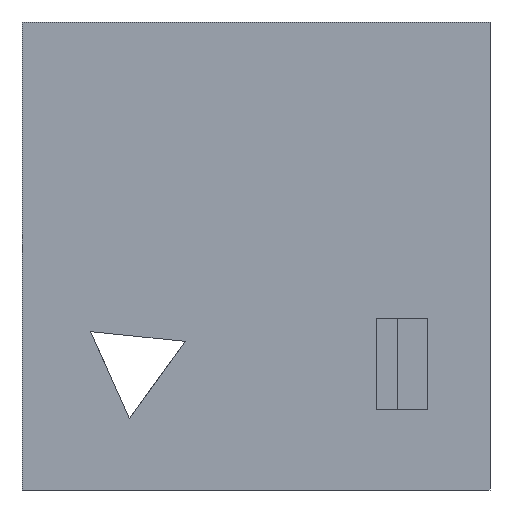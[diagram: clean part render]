
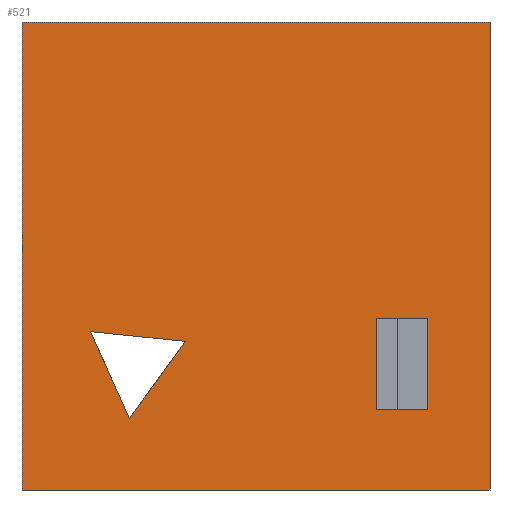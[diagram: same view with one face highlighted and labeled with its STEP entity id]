
A CAD part, left-side view. The second image highlights one B-rep face of the part: STEP entity #521.
In plain terms, the highlighted planar face has unit normal (-1, 0, 0).
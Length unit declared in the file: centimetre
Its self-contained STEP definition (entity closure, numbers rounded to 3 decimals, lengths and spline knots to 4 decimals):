
#12 = CARTESIAN_POINT ( 'NONE',  ( 0., 1000., 0. ) ) ;
#13 = VECTOR ( 'NONE', #1765, 100. ) ;
#43 = EDGE_CURVE ( 'NONE', #351, #1014, #515, .T. ) ;
#100 = DIRECTION ( 'NONE',  ( 1., 0., 0. ) ) ;
#146 = CARTESIAN_POINT ( 'NONE',  ( 0., 651.0376, 317.6156 ) ) ;
#164 = VERTEX_POINT ( 'NONE', #620 ) ;
#165 = CARTESIAN_POINT ( 'NONE',  ( 0., 132.484, 367.2993 ) ) ;
#187 = EDGE_CURVE ( 'NONE', #196, #321, #1201, .T. ) ;
#196 = VERTEX_POINT ( 'NONE', #522 ) ;
#214 = ORIENTED_EDGE ( 'NONE', *, *, #1640, .T. ) ;
#225 = DIRECTION ( 'NONE',  ( 0., 0.409, 0.913 ) ) ;
#247 = FACE_OUTER_BOUND ( 'NONE', #1452, .T. ) ;
#321 = VERTEX_POINT ( 'NONE', #1229 ) ;
#327 = ORIENTED_EDGE ( 'NONE', *, *, #875, .T. ) ;
#330 = CARTESIAN_POINT ( 'NONE',  ( 0., 0., 0. ) ) ;
#351 = VERTEX_POINT ( 'NONE', #433 ) ;
#367 = PLANE ( 'NONE',  #981 ) ;
#384 = DIRECTION ( 'NONE',  ( 0., 0., -1. ) ) ;
#392 = VERTEX_POINT ( 'NONE', #687 ) ;
#403 = EDGE_CURVE ( 'NONE', #392, #835, #989, .T. ) ;
#419 = CARTESIAN_POINT ( 'NONE',  ( 0., 1000., 0. ) ) ;
#429 = LINE ( 'NONE', #146, #784 ) ;
#433 = CARTESIAN_POINT ( 'NONE',  ( 0., 1000., 1000. ) ) ;
#512 = ORIENTED_EDGE ( 'NONE', *, *, #1221, .F. ) ;
#515 = LINE ( 'NONE', #1511, #1106 ) ;
#516 = DIRECTION ( 'NONE',  ( 0., 0., -1. ) ) ;
#521 = ADVANCED_FACE ( 'NONE', ( #1788, #1629, #247 ), #367, .F. ) ;
#522 = CARTESIAN_POINT ( 'NONE',  ( 0., 242.7774, 367.2993 ) ) ;
#559 = DIRECTION ( 'NONE',  ( 0., -0.995, -0.102 ) ) ;
#586 = DIRECTION ( 'NONE',  ( 0., 0.586, -0.81 ) ) ;
#615 = EDGE_CURVE ( 'NONE', #1392, #1134, #429, .T. ) ;
#620 = CARTESIAN_POINT ( 'NONE',  ( 0., 770.4334, 152.4191 ) ) ;
#656 = ORIENTED_EDGE ( 'NONE', *, *, #1474, .F. ) ;
#670 = CARTESIAN_POINT ( 'NONE',  ( 0., 0., 1000. ) ) ;
#677 = EDGE_CURVE ( 'NONE', #835, #196, #1422, .T. ) ;
#687 = CARTESIAN_POINT ( 'NONE',  ( 0., 132.484, 172.672 ) ) ;
#694 = LINE ( 'NONE', #419, #1369 ) ;
#700 = EDGE_CURVE ( 'NONE', #1014, #713, #694, .T. ) ;
#704 = DIRECTION ( 'NONE',  ( 0., 0., 1. ) ) ;
#713 = VERTEX_POINT ( 'NONE', #330 ) ;
#722 = DIRECTION ( 'NONE',  ( 0., 1., 0. ) ) ;
#725 = ORIENTED_EDGE ( 'NONE', *, *, #403, .F. ) ;
#776 = CARTESIAN_POINT ( 'NONE',  ( 0., 132.484, 367.2993 ) ) ;
#778 = EDGE_LOOP ( 'NONE', ( #214, #327, #997 ) ) ;
#784 = VECTOR ( 'NONE', #559, 100. ) ;
#835 = VERTEX_POINT ( 'NONE', #776 ) ;
#855 = EDGE_LOOP ( 'NONE', ( #725, #512, #903, #1284 ) ) ;
#857 = LINE ( 'NONE', #1254, #1610 ) ;
#875 = EDGE_CURVE ( 'NONE', #164, #1392, #1504, .T. ) ;
#903 = ORIENTED_EDGE ( 'NONE', *, *, #187, .F. ) ;
#910 = LINE ( 'NONE', #1729, #1691 ) ;
#911 = ORIENTED_EDGE ( 'NONE', *, *, #1008, .F. ) ;
#981 = AXIS2_PLACEMENT_3D ( 'NONE', #1366, #100, #1228 ) ;
#984 = DIRECTION ( 'NONE',  ( 0., -1., 0. ) ) ;
#989 = LINE ( 'NONE', #1546, #1600 ) ;
#997 = ORIENTED_EDGE ( 'NONE', *, *, #615, .T. ) ;
#1006 = DIRECTION ( 'NONE',  ( 0., -1., 0. ) ) ;
#1008 = EDGE_CURVE ( 'NONE', #351, #1565, #857, .T. ) ;
#1014 = VERTEX_POINT ( 'NONE', #12 ) ;
#1106 = VECTOR ( 'NONE', #384, 100. ) ;
#1134 = VERTEX_POINT ( 'NONE', #1733 ) ;
#1196 = CARTESIAN_POINT ( 'NONE',  ( 0., 132.484, 172.672 ) ) ;
#1201 = LINE ( 'NONE', #1358, #13 ) ;
#1221 = EDGE_CURVE ( 'NONE', #321, #392, #1371, .T. ) ;
#1228 = DIRECTION ( 'NONE',  ( 0., 0., -1. ) ) ;
#1229 = CARTESIAN_POINT ( 'NONE',  ( 0., 242.7774, 172.672 ) ) ;
#1235 = VECTOR ( 'NONE', #1662, 100. ) ;
#1254 = CARTESIAN_POINT ( 'NONE',  ( 0., 1000., 1000. ) ) ;
#1269 = VECTOR ( 'NONE', #516, 100. ) ;
#1284 = ORIENTED_EDGE ( 'NONE', *, *, #677, .F. ) ;
#1358 = CARTESIAN_POINT ( 'NONE',  ( 0., 242.7774, 172.672 ) ) ;
#1366 = CARTESIAN_POINT ( 'NONE',  ( 0., 1000., 1000. ) ) ;
#1369 = VECTOR ( 'NONE', #984, 100. ) ;
#1371 = LINE ( 'NONE', #1196, #1235 ) ;
#1392 = VERTEX_POINT ( 'NONE', #1762 ) ;
#1422 = LINE ( 'NONE', #165, #1725 ) ;
#1435 = ORIENTED_EDGE ( 'NONE', *, *, #700, .T. ) ;
#1452 = EDGE_LOOP ( 'NONE', ( #1435, #656, #911, #1705 ) ) ;
#1474 = EDGE_CURVE ( 'NONE', #1565, #713, #1786, .T. ) ;
#1504 = LINE ( 'NONE', #1646, #1699 ) ;
#1511 = CARTESIAN_POINT ( 'NONE',  ( 0., 1000., 1000. ) ) ;
#1546 = CARTESIAN_POINT ( 'NONE',  ( 0., 132.484, 172.672 ) ) ;
#1565 = VERTEX_POINT ( 'NONE', #1796 ) ;
#1600 = VECTOR ( 'NONE', #704, 100. ) ;
#1610 = VECTOR ( 'NONE', #1006, 100. ) ;
#1629 = FACE_BOUND ( 'NONE', #778, .T. ) ;
#1640 = EDGE_CURVE ( 'NONE', #1134, #164, #910, .T. ) ;
#1646 = CARTESIAN_POINT ( 'NONE',  ( 0., 853.7999, 338.4172 ) ) ;
#1662 = DIRECTION ( 'NONE',  ( 0., -1., 0. ) ) ;
#1691 = VECTOR ( 'NONE', #586, 100. ) ;
#1699 = VECTOR ( 'NONE', #225, 100. ) ;
#1705 = ORIENTED_EDGE ( 'NONE', *, *, #43, .T. ) ;
#1725 = VECTOR ( 'NONE', #722, 100. ) ;
#1729 = CARTESIAN_POINT ( 'NONE',  ( 0., 770.4334, 152.4191 ) ) ;
#1733 = CARTESIAN_POINT ( 'NONE',  ( 0., 651.0376, 317.6156 ) ) ;
#1762 = CARTESIAN_POINT ( 'NONE',  ( 0., 853.7999, 338.4172 ) ) ;
#1765 = DIRECTION ( 'NONE',  ( 0., 0., -1. ) ) ;
#1786 = LINE ( 'NONE', #670, #1269 ) ;
#1788 = FACE_BOUND ( 'NONE', #855, .T. ) ;
#1796 = CARTESIAN_POINT ( 'NONE',  ( 0., 0., 1000. ) ) ;
